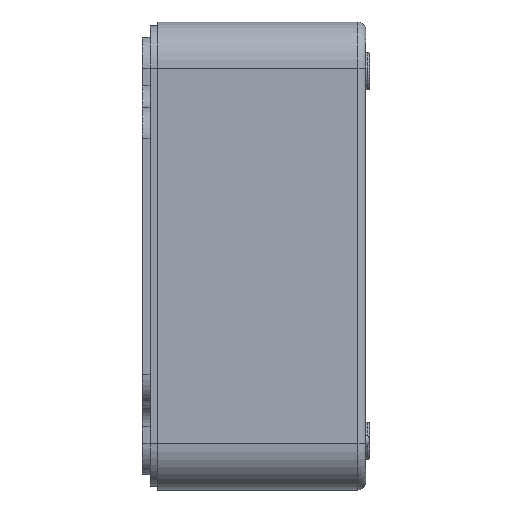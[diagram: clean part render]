
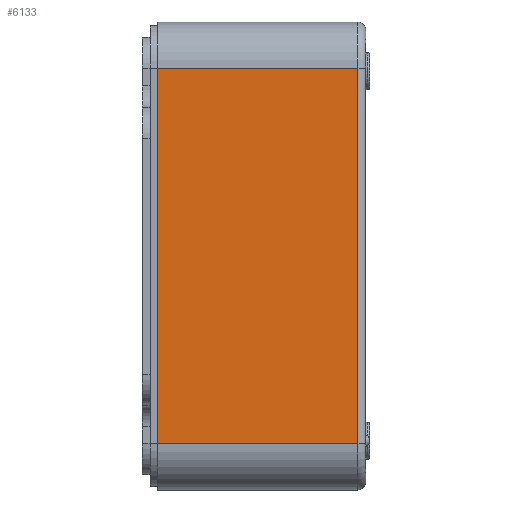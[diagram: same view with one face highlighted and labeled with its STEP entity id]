
A CAD part, left-side view. The second image highlights one B-rep face of the part: STEP entity #6133.
In plain terms, the highlighted planar face has unit normal (-1, 0, 0).
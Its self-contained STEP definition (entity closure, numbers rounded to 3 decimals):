
#248 = CARTESIAN_POINT ( 'NONE',  ( -32.85, -28., 24.4 ) ) ;
#758 = DIRECTION ( 'NONE',  ( 0., 1., 0. ) ) ;
#808 = VERTEX_POINT ( 'NONE', #2069 ) ;
#1012 = CARTESIAN_POINT ( 'NONE',  ( -32.85, -28., -24.4 ) ) ;
#1119 = LINE ( 'NONE', #3923, #6458 ) ;
#1518 = DIRECTION ( 'NONE',  ( -1., 0., 0. ) ) ;
#1798 = CARTESIAN_POINT ( 'NONE',  ( -32.85, -28., 24.4 ) ) ;
#1982 = ORIENTED_EDGE ( 'NONE', *, *, #5340, .T. ) ;
#2028 = PLANE ( 'NONE',  #5148 ) ;
#2060 = VECTOR ( 'NONE', #5477, 1000. ) ;
#2069 = CARTESIAN_POINT ( 'NONE',  ( -32.85, -2., -24.4 ) ) ;
#2564 = VECTOR ( 'NONE', #2876, 1000. ) ;
#2705 = ORIENTED_EDGE ( 'NONE', *, *, #5392, .T. ) ;
#2876 = DIRECTION ( 'NONE',  ( 0., -1., 0. ) ) ;
#3049 = ORIENTED_EDGE ( 'NONE', *, *, #5350, .T. ) ;
#3196 = CARTESIAN_POINT ( 'NONE',  ( -32.85, -2., 0. ) ) ;
#3438 = ORIENTED_EDGE ( 'NONE', *, *, #5135, .F. ) ;
#3698 = DIRECTION ( 'NONE',  ( 0., 0., 1. ) ) ;
#3734 = EDGE_LOOP ( 'NONE', ( #1982, #2705, #3049, #3438 ) ) ;
#3923 = CARTESIAN_POINT ( 'NONE',  ( -32.85, -29., 24.4 ) ) ;
#3932 = LINE ( 'NONE', #6419, #2564 ) ;
#4005 = FACE_OUTER_BOUND ( 'NONE', #3734, .T. ) ;
#4078 = VERTEX_POINT ( 'NONE', #1798 ) ;
#4606 = CARTESIAN_POINT ( 'NONE',  ( -32.85, -29., -30.4 ) ) ;
#4754 = VERTEX_POINT ( 'NONE', #6021 ) ;
#4884 = VECTOR ( 'NONE', #3698, 1000. ) ;
#4962 = VERTEX_POINT ( 'NONE', #1012 ) ;
#5118 = DIRECTION ( 'NONE',  ( 0., 0., 1. ) ) ;
#5135 = EDGE_CURVE ( 'NONE', #808, #4754, #6211, .T. ) ;
#5148 = AXIS2_PLACEMENT_3D ( 'NONE', #4606, #1518, #5118 ) ;
#5340 = EDGE_CURVE ( 'NONE', #808, #4962, #3932, .T. ) ;
#5350 = EDGE_CURVE ( 'NONE', #4078, #4754, #1119, .T. ) ;
#5392 = EDGE_CURVE ( 'NONE', #4962, #4078, #6129, .T. ) ;
#5477 = DIRECTION ( 'NONE',  ( 0., 0., 1. ) ) ;
#6021 = CARTESIAN_POINT ( 'NONE',  ( -32.85, -2., 24.4 ) ) ;
#6129 = LINE ( 'NONE', #248, #2060 ) ;
#6133 = ADVANCED_FACE ( 'NONE', ( #4005 ), #2028, .T. ) ;
#6211 = LINE ( 'NONE', #3196, #4884 ) ;
#6419 = CARTESIAN_POINT ( 'NONE',  ( -32.85, -29., -24.4 ) ) ;
#6458 = VECTOR ( 'NONE', #758, 1000. ) ;
